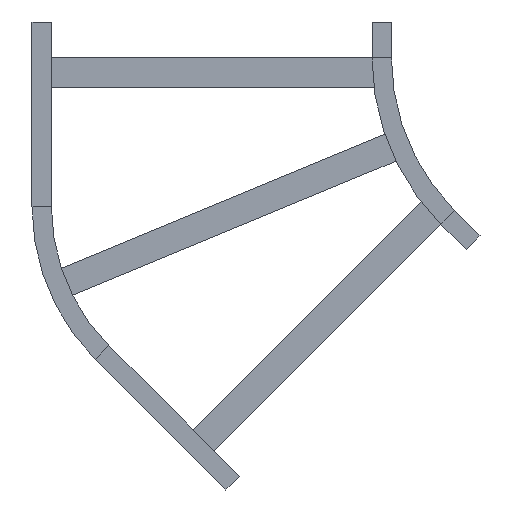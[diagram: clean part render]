
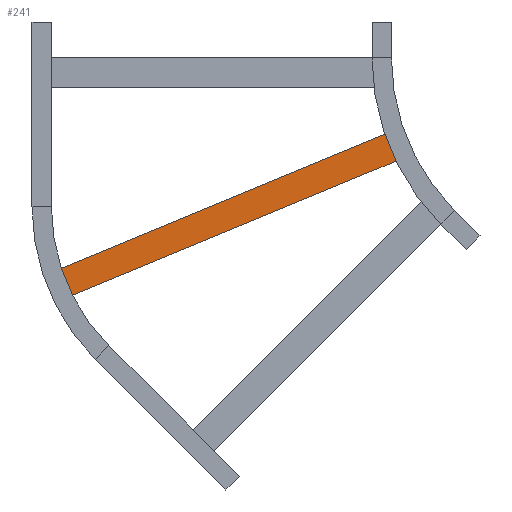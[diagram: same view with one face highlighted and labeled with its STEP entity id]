
A CAD part, front view. The second image highlights one B-rep face of the part: STEP entity #241.
In plain terms, the highlighted planar face has unit normal (0, -1, 0).
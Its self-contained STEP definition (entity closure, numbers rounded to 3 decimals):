
#81 = EDGE_CURVE ( 'NONE', #450, #505, #997, .T. ) ;
#126 = CARTESIAN_POINT ( 'NONE',  ( -268., 0., 20.25 ) ) ;
#145 = CARTESIAN_POINT ( 'NONE',  ( -268., 0., -20.25 ) ) ;
#207 = ORIENTED_EDGE ( 'NONE', *, *, #575, .F. ) ;
#208 = DIRECTION ( 'NONE',  ( 0., 0., 1. ) ) ;
#225 = CARTESIAN_POINT ( 'NONE',  ( 268., 0., 20.25 ) ) ;
#241 = ADVANCED_FACE ( 'NONE', ( #1208 ), #1200, .F. ) ;
#313 = ORIENTED_EDGE ( 'NONE', *, *, #614, .F. ) ;
#378 = EDGE_CURVE ( 'NONE', #925, #450, #1705, .T. ) ;
#408 = DIRECTION ( 'NONE',  ( -1., 0., 0. ) ) ;
#445 = CARTESIAN_POINT ( 'NONE',  ( -268., 0., 20.25 ) ) ;
#449 = CARTESIAN_POINT ( 'NONE',  ( 268., 0., -20.25 ) ) ;
#450 = VERTEX_POINT ( 'NONE', #126 ) ;
#487 = VECTOR ( 'NONE', #408, 1000. ) ;
#505 = VERTEX_POINT ( 'NONE', #145 ) ;
#575 = EDGE_CURVE ( 'NONE', #925, #942, #885, .T. ) ;
#614 = EDGE_CURVE ( 'NONE', #942, #505, #777, .T. ) ;
#681 = ORIENTED_EDGE ( 'NONE', *, *, #81, .T. ) ;
#768 = CARTESIAN_POINT ( 'NONE',  ( 268., 0., -20.25 ) ) ;
#777 = LINE ( 'NONE', #768, #1340 ) ;
#780 = VECTOR ( 'NONE', #1451, 1000. ) ;
#885 = LINE ( 'NONE', #1769, #780 ) ;
#925 = VERTEX_POINT ( 'NONE', #1173 ) ;
#942 = VERTEX_POINT ( 'NONE', #449 ) ;
#997 = LINE ( 'NONE', #445, #1478 ) ;
#1029 = DIRECTION ( 'NONE',  ( 0., 0., -1. ) ) ;
#1129 = CARTESIAN_POINT ( 'NONE',  ( 268., 0., 20.25 ) ) ;
#1173 = CARTESIAN_POINT ( 'NONE',  ( 268., 0., 20.25 ) ) ;
#1200 = PLANE ( 'NONE',  #1207 ) ;
#1207 = AXIS2_PLACEMENT_3D ( 'NONE', #225, #1809, #208 ) ;
#1208 = FACE_OUTER_BOUND ( 'NONE', #1524, .T. ) ;
#1340 = VECTOR ( 'NONE', #1655, 1000. ) ;
#1451 = DIRECTION ( 'NONE',  ( 0., 0., -1. ) ) ;
#1478 = VECTOR ( 'NONE', #1029, 1000. ) ;
#1524 = EDGE_LOOP ( 'NONE', ( #681, #313, #207, #1625 ) ) ;
#1625 = ORIENTED_EDGE ( 'NONE', *, *, #378, .T. ) ;
#1655 = DIRECTION ( 'NONE',  ( -1., 0., 0. ) ) ;
#1705 = LINE ( 'NONE', #1129, #487 ) ;
#1769 = CARTESIAN_POINT ( 'NONE',  ( 268., 0., 20.25 ) ) ;
#1809 = DIRECTION ( 'NONE',  ( 0., 1., 0. ) ) ;
